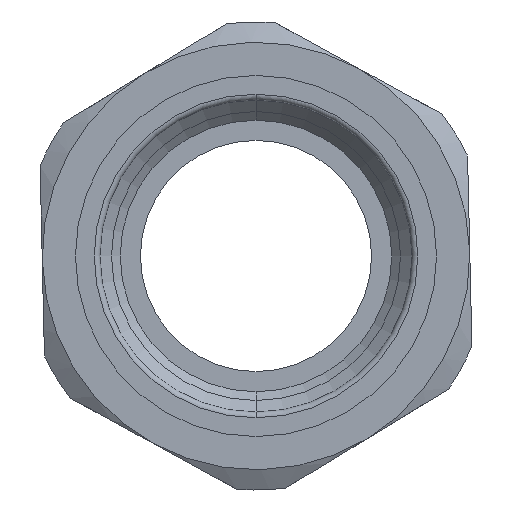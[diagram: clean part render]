
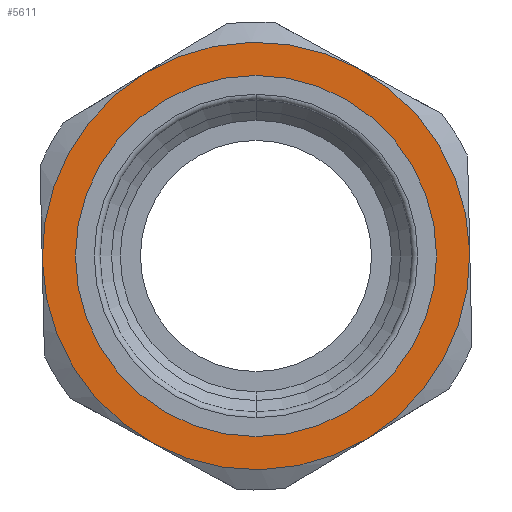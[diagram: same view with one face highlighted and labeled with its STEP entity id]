
A CAD part, front view. The second image highlights one B-rep face of the part: STEP entity #5611.
In plain terms, the highlighted planar face has unit normal (0, -1, 0).
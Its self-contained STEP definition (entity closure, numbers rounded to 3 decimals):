
#124 = EDGE_LOOP ( 'NONE', ( #4629, #4630, #4631, #4632, #4633, #4634 ) ) ;
#125 = EDGE_LOOP ( 'NONE', ( #4635, #4636 ) ) ;
#333 = EDGE_CURVE ( 'NONE', #1706, #1721, #4484, .T. ) ;
#1005 = CARTESIAN_POINT ( 'NONE',  ( 0., -36.013, 0. ) ) ;
#1006 = DIRECTION ( 'NONE',  ( 0., -1., 0. ) ) ;
#1007 = DIRECTION ( 'NONE',  ( 1., 0., 0. ) ) ;
#1222 = FACE_BOUND ( 'NONE', #125, .T. ) ;
#1226 = CARTESIAN_POINT ( 'NONE',  ( 0., -36.013, 0. ) ) ;
#1230 = FACE_OUTER_BOUND ( 'NONE', #124, .T. ) ;
#1231 = PLANE ( 'NONE',  #5557 ) ;
#1233 = DIRECTION ( 'NONE',  ( 0., -1., 0. ) ) ;
#1234 = DIRECTION ( 'NONE',  ( 1., 0., 0.023 ) ) ;
#1706 = VERTEX_POINT ( 'NONE', #2773 ) ;
#1721 = VERTEX_POINT ( 'NONE', #2788 ) ;
#1832 = VERTEX_POINT ( 'NONE', #2838 ) ;
#1836 = VERTEX_POINT ( 'NONE', #2842 ) ;
#1838 = VERTEX_POINT ( 'NONE', #2844 ) ;
#1839 = VERTEX_POINT ( 'NONE', #2845 ) ;
#1854 = VERTEX_POINT ( 'NONE', #2860 ) ;
#1858 = VERTEX_POINT ( 'NONE', #2864 ) ;
#2024 = CIRCLE ( 'NONE', #2030, 37. ) ;
#2030 = AXIS2_PLACEMENT_3D ( 'NONE', #5359, #5360, #5361 ) ;
#2401 = AXIS2_PLACEMENT_3D ( 'NONE', #4057, #4058, #4059 ) ;
#2403 = CIRCLE ( 'NONE', #2401, 31.25 ) ;
#2773 = CARTESIAN_POINT ( 'NONE',  ( 0., -36.013, 31.25 ) ) ;
#2788 = CARTESIAN_POINT ( 'NONE',  ( 0., -36.013, -31.25 ) ) ;
#2838 = CARTESIAN_POINT ( 'NONE',  ( -19.221, -36.013, 31.616 ) ) ;
#2842 = CARTESIAN_POINT ( 'NONE',  ( 19.221, -36.013, -31.616 ) ) ;
#2844 = CARTESIAN_POINT ( 'NONE',  ( 17.77, -36.013, 32.454 ) ) ;
#2845 = CARTESIAN_POINT ( 'NONE',  ( -36.991, -36.013, -0.838 ) ) ;
#2860 = CARTESIAN_POINT ( 'NONE',  ( 36.991, -36.013, 0.838 ) ) ;
#2864 = CARTESIAN_POINT ( 'NONE',  ( -17.77, -36.013, -32.454 ) ) ;
#3005 = EDGE_CURVE ( 'NONE', #1721, #1706, #2403, .T. ) ;
#3123 = AXIS2_PLACEMENT_3D ( 'NONE', #5344, #5345, #5346 ) ;
#3126 = CIRCLE ( 'NONE', #3123, 37. ) ;
#3127 = AXIS2_PLACEMENT_3D ( 'NONE', #5337, #5338, #5339 ) ;
#3130 = CIRCLE ( 'NONE', #3127, 37. ) ;
#3143 = AXIS2_PLACEMENT_3D ( 'NONE', #5313, #5314, #5315 ) ;
#3146 = CIRCLE ( 'NONE', #3143, 37. ) ;
#3153 = AXIS2_PLACEMENT_3D ( 'NONE', #5298, #5299, #5300 ) ;
#3156 = CIRCLE ( 'NONE', #3153, 37. ) ;
#3163 = AXIS2_PLACEMENT_3D ( 'NONE', #5281, #5282, #5283 ) ;
#3165 = CIRCLE ( 'NONE', #3163, 37. ) ;
#3241 = EDGE_CURVE ( 'NONE', #1832, #1838, #3165, .T. ) ;
#3247 = EDGE_CURVE ( 'NONE', #1838, #1854, #3156, .T. ) ;
#3252 = EDGE_CURVE ( 'NONE', #1854, #1836, #3146, .T. ) ;
#3260 = EDGE_CURVE ( 'NONE', #1839, #1832, #3130, .T. ) ;
#3262 = EDGE_CURVE ( 'NONE', #1858, #1839, #3126, .T. ) ;
#3267 = EDGE_CURVE ( 'NONE', #1836, #1858, #2024, .T. ) ;
#4057 = CARTESIAN_POINT ( 'NONE',  ( 0., -36.013, 0. ) ) ;
#4058 = DIRECTION ( 'NONE',  ( 0., -1., 0. ) ) ;
#4059 = DIRECTION ( 'NONE',  ( 1., 0., 0. ) ) ;
#4469 = AXIS2_PLACEMENT_3D ( 'NONE', #1005, #1006, #1007 ) ;
#4484 = CIRCLE ( 'NONE', #4469, 31.25 ) ;
#4629 = ORIENTED_EDGE ( 'NONE', *, *, #3252, .F. ) ;
#4630 = ORIENTED_EDGE ( 'NONE', *, *, #3247, .F. ) ;
#4631 = ORIENTED_EDGE ( 'NONE', *, *, #3241, .F. ) ;
#4632 = ORIENTED_EDGE ( 'NONE', *, *, #3260, .F. ) ;
#4633 = ORIENTED_EDGE ( 'NONE', *, *, #3262, .F. ) ;
#4634 = ORIENTED_EDGE ( 'NONE', *, *, #3267, .F. ) ;
#4635 = ORIENTED_EDGE ( 'NONE', *, *, #333, .F. ) ;
#4636 = ORIENTED_EDGE ( 'NONE', *, *, #3005, .F. ) ;
#5281 = CARTESIAN_POINT ( 'NONE',  ( 0., -36.013, 0. ) ) ;
#5282 = DIRECTION ( 'NONE',  ( 0., 1., 0. ) ) ;
#5283 = DIRECTION ( 'NONE',  ( -1., 0., -0.023 ) ) ;
#5298 = CARTESIAN_POINT ( 'NONE',  ( 0., -36.013, 0. ) ) ;
#5299 = DIRECTION ( 'NONE',  ( 0., 1., 0. ) ) ;
#5300 = DIRECTION ( 'NONE',  ( -1., 0., -0.023 ) ) ;
#5313 = CARTESIAN_POINT ( 'NONE',  ( 0., -36.013, 0. ) ) ;
#5314 = DIRECTION ( 'NONE',  ( 0., 1., 0. ) ) ;
#5315 = DIRECTION ( 'NONE',  ( -1., 0., -0.023 ) ) ;
#5337 = CARTESIAN_POINT ( 'NONE',  ( 0., -36.013, 0. ) ) ;
#5338 = DIRECTION ( 'NONE',  ( 0., 1., 0. ) ) ;
#5339 = DIRECTION ( 'NONE',  ( -1., 0., -0.023 ) ) ;
#5344 = CARTESIAN_POINT ( 'NONE',  ( 0., -36.013, 0. ) ) ;
#5345 = DIRECTION ( 'NONE',  ( 0., 1., 0. ) ) ;
#5346 = DIRECTION ( 'NONE',  ( -1., 0., -0.023 ) ) ;
#5359 = CARTESIAN_POINT ( 'NONE',  ( 0., -36.013, 0. ) ) ;
#5360 = DIRECTION ( 'NONE',  ( 0., 1., 0. ) ) ;
#5361 = DIRECTION ( 'NONE',  ( -1., 0., -0.023 ) ) ;
#5557 = AXIS2_PLACEMENT_3D ( 'NONE', #1226, #1233, #1234 ) ;
#5611 = ADVANCED_FACE ( 'NONE', ( #1230, #1222 ), #1231, .T. ) ;
